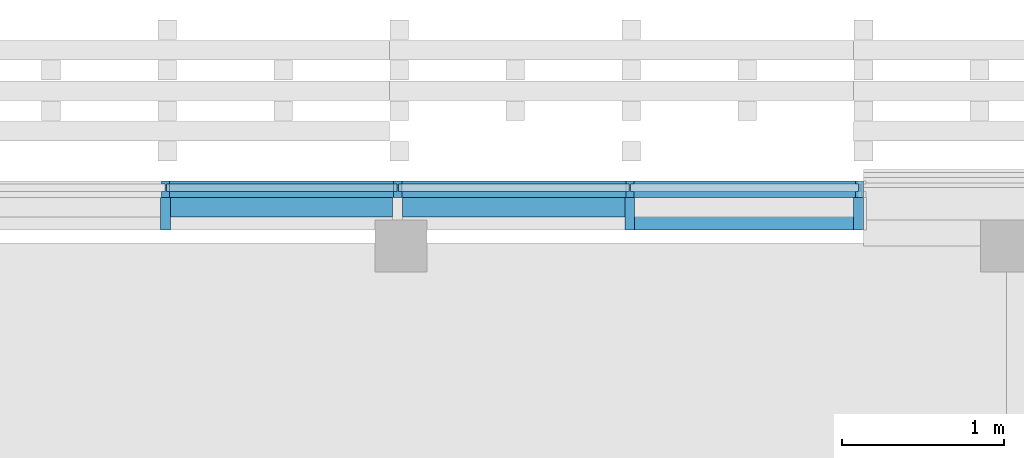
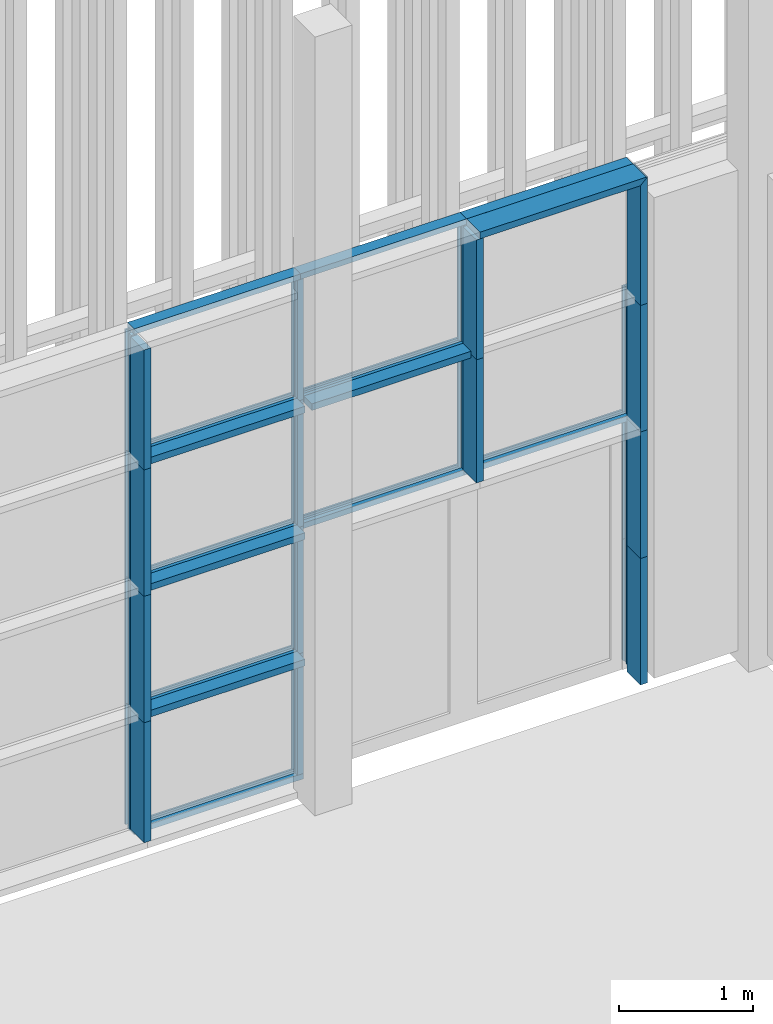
# One storey, part 38 of 260: 38 members, 2 elements without a shape of their own.
"""IFC2X3 building model written with IfcOpenShell, lengths in millimetres."""

from ifc_helpers import new_model, entity, si_unit, converted_unit, derived_unit, money_unit, direction, frame, origin_with_axes, place, context, subcontext, project, spatial, faceted_brep, source, transform, mapped, material, type_object, element, aggregate, save


model = new_model("IFC2X3")

# Units and contexts
model_context = context("Model", 3, precision=0.01, world=origin_with_axes(), true_north=direction((0.0, 1.0)))
body_context = subcontext(model_context, "Body", "Model", "MODEL_VIEW")
ifc_project = project(units=[si_unit("LENGTHUNIT", "METRE", prefix="MILLI"), si_unit("AREAUNIT", "SQUARE_METRE"), si_unit("VOLUMEUNIT", "CUBIC_METRE"), converted_unit("PLANEANGLEUNIT", "DEGREE", entity("IfcPlaneAngleMeasure", 0.0174532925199), si_unit("PLANEANGLEUNIT", "RADIAN"), dimensions=[0, 0, 0, 0, 0, 0, 0]), money_unit("EUR"), converted_unit("TIMEUNIT", "Year", entity("IfcTimeMeasure", 31556926.0), si_unit("TIMEUNIT", "SECOND"), dimensions=[0, 0, 1, 0, 0, 0, 0]), si_unit("MASSUNIT", "GRAM", prefix="KILO"), si_unit("THERMODYNAMICTEMPERATUREUNIT", "DEGREE_CELSIUS"), si_unit("LUMINOUSINTENSITYUNIT", "LUMEN"), si_unit("ENERGYUNIT", "JOULE", prefix="MEGA"), derived_unit("THERMALCONDUCTANCEUNIT", [(si_unit("POWERUNIT", "WATT"), 1), (si_unit("LENGTHUNIT", "METRE"), -1), (si_unit("THERMODYNAMICTEMPERATUREUNIT", "KELVIN"), -1)]), derived_unit("SPECIFICHEATCAPACITYUNIT", [(si_unit("ENERGYUNIT", "JOULE"), 1), (si_unit("MASSUNIT", "GRAM", prefix="KILO"), -1), (si_unit("THERMODYNAMICTEMPERATUREUNIT", "KELVIN"), -1)]), derived_unit("MASSDENSITYUNIT", [(si_unit("MASSUNIT", "GRAM", prefix="KILO"), 1), (si_unit("VOLUMEUNIT", "CUBIC_METRE"), -1)])], contexts=[model_context])

# Site, building, storey
site_placement = place(None, origin_with_axes())
site = spatial("IfcSite", under=ifc_project, at=site_placement, Name="Kolde pst 67a", CompositionType="ELEMENT")
building_placement = place(site_placement, origin_with_axes())
building = spatial("IfcBuilding", under=site, at=building_placement, Name="Riigigümnaasium", CompositionType="ELEMENT")
storey_placement = place(building_placement, origin_with_axes())
storey = spatial("IfcBuildingStorey", under=building, at=storey_placement, Name="1. korrus", CompositionType="ELEMENT", Elevation=0.0)

# Curtain wall, members
curtain_wall_type = type_object("IfcCurtainWallType", Name="Curtain Wall Type", PredefinedType="NOTDEFINED")
curtain_wall_1_placement = place(storey_placement, frame((10366.0828546, 84639.9999608, 0.0), z_axis=(0.0, 0.0, 1.0), x_axis=(1.0, 0.0, 0.0)))
curtain_wall_1 = element("IfcCurtainWall", 1, at=curtain_wall_1_placement, inside=storey, type_object=curtain_wall_type, Name="KLAASFASSAAD")
ifc_material_1 = material(Name="_METALL - alumiinium")
member_type_1 = type_object("IfcMemberType", Name="Boundary Frame 50 x 100", PredefinedType="MEMBER")
shared_shape_1 = source(origin_with_axes(), body_context, "Body", "Brep", [
    faceted_brep([(-30.0, -24.0, 1455.0), (-50.0, -24.0, 1455.0), (-50.0, -60.0, 1455.0), (0.0, -60.0, 1455.0), (0.0, 40.0, 1455.0), (-50.0, 40.0, 1455.0), (-50.0, 24.0, 1455.0), (-30.0, 24.0, 1455.0), (-30.0, -24.0, 0.0), (-50.0, -24.0, 0.0), (-50.0, -60.0, 0.0), (0.0, -60.0, 0.0), (0.0, 40.0, 0.0), (-50.0, 40.0, 0.0), (-50.0, 24.0, 0.0), (-30.0, 24.0, 0.0)], [[[0, 1, 2, 3, 4, 5, 6, 7]], [[0, 8, 9, 1]], [[9, 10, 2, 1]], [[10, 11, 3, 2]], [[11, 12, 4, 3]], [[12, 13, 5, 4]], [[6, 5, 13, 14]], [[14, 15, 7, 6]], [[7, 15, 8, 0]], [[8, 15, 14, 13, 12, 11, 10, 9]]]),
])
member_1_placement = place(curtain_wall_1_placement, frame((20735.0, 0.0, 0.0), z_axis=(1.0, 0.0, 0.0), x_axis=(0.0, 0.0, 1.0)))
member_1 = element("IfcMember", 2, at=member_1_placement, type_object=member_type_1, material=ifc_material_1, Name="RF RAAM SERV-091", ObjectType="MEMBER", context=body_context, shape_type="MappedRepresentation", body=[
    mapped(shared_shape_1, transform((0.0, 0.0, 0.0), x_axis=(-1.0, 0.0, 0.0), y_axis=(0.0, -1.0, 0.0), z_axis=(0.0, 0.0, 1.0))),
])
member_type_2 = type_object("IfcMemberType", Name="Transom Frame 50 x 100", PredefinedType="MEMBER")
shared_shape_2 = source(origin_with_axes(), body_context, "Body", "Brep", [
    faceted_brep([(5.0, -24.0, 1405.0), (5.0, 24.0, 1405.0), (25.0, 24.0, 1405.0), (25.0, 40.0, 1405.0), (-25.0, 40.0, 1405.0), (-25.0, 24.0, 1405.0), (-5.0, 24.0, 1405.0), (-5.0, -24.0, 1405.0), (-25.0, -24.0, 1405.0), (-25.0, -60.0, 1405.0), (25.0, -60.0, 1405.0), (25.0, -24.0, 1405.0), (5.0, -24.0, 25.0), (5.0, 24.0, 25.0), (25.0, 24.0, 25.0), (25.0, 40.0, 25.0), (-25.0, 40.0, 25.0), (-25.0, 24.0, 25.0), (-5.0, 24.0, 25.0), (-5.0, -24.0, 25.0), (-25.0, -24.0, 25.0), (-25.0, -60.0, 25.0), (25.0, -60.0, 25.0), (25.0, -24.0, 25.0)], [[[0, 1, 2, 3, 4, 5, 6, 7, 8, 9, 10, 11]], [[0, 12, 13, 1]], [[1, 13, 14, 2]], [[14, 15, 3, 2]], [[4, 3, 15, 16]], [[17, 5, 4, 16]], [[5, 17, 18, 6]], [[7, 6, 18, 19]], [[8, 7, 19, 20]], [[8, 20, 21, 9]], [[10, 9, 21, 22]], [[11, 10, 22, 23]], [[11, 23, 12, 0]], [[13, 12, 23, 22, 21, 20, 19, 18, 17, 16, 15, 14]]]),
])
member_2_placement = place(curtain_wall_1_placement, frame((20735.0, 0.0, 1150.0), z_axis=(1.0, 0.0, 0.0), x_axis=(0.0, 0.0, 1.0)))
member_2 = element("IfcMember", 3, at=member_2_placement, type_object=member_type_2, material=ifc_material_1, Name="RF RAAM HOR-798", ObjectType="MEMBER", context=body_context, shape_type="MappedRepresentation", body=[
    mapped(shared_shape_2, transform((0.0, 0.0, 0.0), x_axis=(-1.0, 0.0, 0.0), y_axis=(0.0, -1.0, 0.0), z_axis=(0.0, 0.0, 1.0))),
])
member_3_placement = place(curtain_wall_1_placement, frame((20735.0, 0.0, 2300.0), z_axis=(1.0, 0.0, 0.0), x_axis=(0.0, 0.0, 1.0)))
member_3 = element("IfcMember", 4, at=member_3_placement, type_object=member_type_2, material=ifc_material_1, Name="RF RAAM HOR-798", ObjectType="MEMBER", context=body_context, shape_type="MappedRepresentation", body=[
    mapped(shared_shape_2, transform((0.0, 0.0, 0.0), x_axis=(-1.0, 0.0, 0.0), y_axis=(0.0, -1.0, 0.0), z_axis=(0.0, 0.0, 1.0))),
])
member_4_placement = place(curtain_wall_1_placement, frame((22165.0, 0.0, 2300.0), z_axis=(1.0, 0.0, 0.0), x_axis=(0.0, 0.0, 1.0)))
member_4 = element("IfcMember", 5, at=member_4_placement, type_object=member_type_2, material=ifc_material_1, Name="RF RAAM HOR-798", ObjectType="MEMBER", context=body_context, shape_type="MappedRepresentation", body=[
    mapped(shared_shape_2, transform((0.0, 0.0, 0.0), x_axis=(-1.0, 0.0, 0.0), y_axis=(0.0, -1.0, 0.0), z_axis=(0.0, 0.0, 1.0))),
])
member_5_placement = place(curtain_wall_1_placement, frame((20735.0, 0.0, 3450.0), z_axis=(1.0, 0.0, 0.0), x_axis=(0.0, 0.0, 1.0)))
member_5 = element("IfcMember", 6, at=member_5_placement, type_object=member_type_2, material=ifc_material_1, Name="RF RAAM HOR-798", ObjectType="MEMBER", context=body_context, shape_type="MappedRepresentation", body=[
    mapped(shared_shape_2, transform((0.0, 0.0, 0.0), x_axis=(-1.0, 0.0, 0.0), y_axis=(0.0, -1.0, 0.0), z_axis=(0.0, 0.0, 1.0))),
])
member_6_placement = place(curtain_wall_1_placement, frame((22165.0, 0.0, 3450.0), z_axis=(1.0, 0.0, 0.0), x_axis=(0.0, 0.0, 1.0)))
member_6 = element("IfcMember", 7, at=member_6_placement, type_object=member_type_2, material=ifc_material_1, Name="RF RAAM HOR-798", ObjectType="MEMBER", context=body_context, shape_type="MappedRepresentation", body=[
    mapped(shared_shape_2, transform((0.0, 0.0, 0.0), x_axis=(-1.0, 0.0, 0.0), y_axis=(0.0, -1.0, 0.0), z_axis=(0.0, 0.0, 1.0))),
])
member_7_placement = place(curtain_wall_1_placement, frame((23595.0, 0.0, 2300.0), z_axis=(1.0, 0.0, 0.0), x_axis=(0.0, 0.0, 1.0)))
member_7 = element("IfcMember", 8, at=member_7_placement, type_object=member_type_2, material=ifc_material_1, Name="RF RAAM HOR-019", ObjectType="MEMBER", context=body_context, shape_type="MappedRepresentation", body=[
    mapped(shared_shape_2, transform((0.0, 0.0, 0.0), x_axis=(-1.0, 0.0, 0.0), y_axis=(0.0, -1.0, 0.0), z_axis=(0.0, 0.0, 1.0))),
])
member_type_3 = type_object("IfcMemberType", Name="Mullion Frame 50 x 100", PredefinedType="MEMBER")
shared_shape_3 = source(origin_with_axes(), body_context, "Body", "Brep", [
    faceted_brep([(5.0, -24.0, 1150.0), (5.0, 24.0, 1150.0), (25.0, 24.0, 1150.0), (25.0, 40.0, 1150.0), (-25.0, 40.0, 1150.0), (-25.0, 24.0, 1150.0), (-5.0, 24.0, 1150.0), (-5.0, -24.0, 1150.0), (-25.0, -24.0, 1150.0), (-25.0, -60.0, 1150.0), (25.0, -60.0, 1150.0), (25.0, -24.0, 1150.0), (5.0, -24.0, 50.0), (5.0, 24.0, 50.0), (25.0, 24.0, 50.0), (25.0, 40.0, 50.0), (-25.0, 40.0, 50.0), (-25.0, 24.0, 50.0), (-5.0, 24.0, 50.0), (-5.0, -24.0, 50.0), (-25.0, -24.0, 50.0), (-25.0, -60.0, 50.0), (25.0, -60.0, 50.0), (25.0, -24.0, 50.0)], [[[0, 1, 2, 3, 4, 5, 6, 7, 8, 9, 10, 11]], [[0, 12, 13, 1]], [[1, 13, 14, 2]], [[14, 15, 3, 2]], [[4, 3, 15, 16]], [[17, 5, 4, 16]], [[5, 17, 18, 6]], [[7, 6, 18, 19]], [[8, 7, 19, 20]], [[8, 20, 21, 9]], [[10, 9, 21, 22]], [[11, 10, 22, 23]], [[11, 23, 12, 0]], [[13, 12, 23, 22, 21, 20, 19, 18, 17, 16, 15, 14]]]),
])
member_8_placement = place(curtain_wall_1_placement, frame((20735.0, 0.0, 0.0), z_axis=(0.0, 0.0, 1.0), x_axis=(-1.0, 0.0, 0.0)))
member_8 = element("IfcMember", 9, at=member_8_placement, type_object=member_type_3, material=ifc_material_1, Name="RF RAAM VERT-904", ObjectType="MEMBER", context=body_context, shape_type="MappedRepresentation", body=[
    mapped(shared_shape_3, transform((0.0, 0.0, 0.0), x_axis=(-1.0, 0.0, 0.0), y_axis=(0.0, -1.0, 0.0), z_axis=(0.0, 0.0, 1.0))),
])
member_9_placement = place(curtain_wall_1_placement, frame((22165.0, 0.0, 0.0), z_axis=(0.0, 0.0, 1.0), x_axis=(-1.0, 0.0, 0.0)))
member_9 = element("IfcMember", 10, at=member_9_placement, type_object=member_type_3, material=ifc_material_1, Name="RF RAAM VERT-904", ObjectType="MEMBER", context=body_context, shape_type="MappedRepresentation", body=[
    mapped(shared_shape_3, transform((0.0, 0.0, 0.0), x_axis=(-1.0, 0.0, 0.0), y_axis=(0.0, -1.0, 0.0), z_axis=(0.0, 0.0, 1.0))),
])
shared_shape_4 = source(origin_with_axes(), body_context, "Body", "Brep", [
    faceted_brep([(5.0, -24.0, 1150.0), (5.0, 24.0, 1150.0), (25.0, 24.0, 1150.0), (25.0, 40.0, 1150.0), (-25.0, 40.0, 1150.0), (-25.0, 24.0, 1150.0), (-5.0, 24.0, 1150.0), (-5.0, -24.0, 1150.0), (-25.0, -24.0, 1150.0), (-25.0, -60.0, 1150.0), (25.0, -60.0, 1150.0), (25.0, -24.0, 1150.0), (5.0, -24.0, 0.0), (5.0, 24.0, 0.0), (25.0, 24.0, 0.0), (25.0, 40.0, 0.0), (-25.0, 40.0, 0.0), (-25.0, 24.0, 0.0), (-5.0, 24.0, 0.0), (-5.0, -24.0, 0.0), (-25.0, -24.0, 0.0), (-25.0, -60.0, 0.0), (25.0, -60.0, 0.0), (25.0, -24.0, 0.0)], [[[0, 1, 2, 3, 4, 5, 6, 7, 8, 9, 10, 11]], [[0, 12, 13, 1]], [[1, 13, 14, 2]], [[14, 15, 3, 2]], [[3, 15, 16, 4]], [[17, 5, 4, 16]], [[5, 17, 18, 6]], [[7, 6, 18, 19]], [[8, 7, 19, 20]], [[8, 20, 21, 9]], [[9, 21, 22, 10]], [[11, 10, 22, 23]], [[11, 23, 12, 0]], [[13, 12, 23, 22, 21, 20, 19, 18, 17, 16, 15, 14]]]),
])
member_10_placement = place(curtain_wall_1_placement, frame((20735.0, 0.0, 1150.0), z_axis=(0.0, 0.0, 1.0), x_axis=(-1.0, 0.0, 0.0)))
member_10 = element("IfcMember", 11, at=member_10_placement, type_object=member_type_3, material=ifc_material_1, Name="RF RAAM VERT-904", ObjectType="MEMBER", context=body_context, shape_type="MappedRepresentation", body=[
    mapped(shared_shape_4, transform((0.0, 0.0, 0.0), x_axis=(-1.0, 0.0, 0.0), y_axis=(0.0, -1.0, 0.0), z_axis=(0.0, 0.0, 1.0))),
])
member_11_placement = place(curtain_wall_1_placement, frame((22165.0, 0.0, 1150.0), z_axis=(0.0, 0.0, 1.0), x_axis=(-1.0, 0.0, 0.0)))
member_11 = element("IfcMember", 12, at=member_11_placement, type_object=member_type_3, material=ifc_material_1, Name="RF RAAM VERT-904", ObjectType="MEMBER", context=body_context, shape_type="MappedRepresentation", body=[
    mapped(shared_shape_4, transform((0.0, 0.0, 0.0), x_axis=(-1.0, 0.0, 0.0), y_axis=(0.0, -1.0, 0.0), z_axis=(0.0, 0.0, 1.0))),
])
member_12_placement = place(curtain_wall_1_placement, frame((20735.0, 0.0, 2300.0), z_axis=(0.0, 0.0, 1.0), x_axis=(-1.0, 0.0, 0.0)))
member_12 = element("IfcMember", 13, at=member_12_placement, type_object=member_type_3, material=ifc_material_1, Name="RF RAAM VERT-904", ObjectType="MEMBER", context=body_context, shape_type="MappedRepresentation", body=[
    mapped(shared_shape_4, transform((0.0, 0.0, 0.0), x_axis=(-1.0, 0.0, 0.0), y_axis=(0.0, -1.0, 0.0), z_axis=(0.0, 0.0, 1.0))),
])
member_13_placement = place(curtain_wall_1_placement, frame((22165.0, 0.0, 2300.0), z_axis=(0.0, 0.0, 1.0), x_axis=(-1.0, 0.0, 0.0)))
member_13 = element("IfcMember", 14, at=member_13_placement, type_object=member_type_3, material=ifc_material_1, Name="RF RAAM VERT-904", ObjectType="MEMBER", context=body_context, shape_type="MappedRepresentation", body=[
    mapped(shared_shape_4, transform((0.0, 0.0, 0.0), x_axis=(-1.0, 0.0, 0.0), y_axis=(0.0, -1.0, 0.0), z_axis=(0.0, 0.0, 1.0))),
])
shared_shape_5 = source(origin_with_axes(), body_context, "Body", "Brep", [
    faceted_brep([(5.0, -24.0, 1150.0), (5.0, 24.0, 1150.0), (25.0, 24.0, 1150.0), (25.0, 40.0, 1150.0), (-25.0, 40.0, 1150.0), (-25.0, 24.0, 1150.0), (-5.0, 24.0, 1150.0), (-5.0, -24.0, 1150.0), (-25.0, -24.0, 1150.0), (-25.0, -60.0, 1150.0), (25.0, -60.0, 1150.0), (25.0, -24.0, 1150.0), (5.0, -24.0, -25.0), (5.0, 24.0, -25.0), (25.0, 24.0, -25.0), (25.0, 40.0, -25.0), (-25.0, 40.0, -25.0), (-25.0, 24.0, -25.0), (-5.0, 24.0, -25.0), (-5.0, -24.0, -25.0), (-25.0, -24.0, -25.0), (-25.0, -60.0, -25.0), (25.0, -60.0, -25.0), (25.0, -24.0, -25.0)], [[[0, 1, 2, 3, 4, 5, 6, 7, 8, 9, 10, 11]], [[0, 12, 13, 1]], [[1, 13, 14, 2]], [[14, 15, 3, 2]], [[3, 15, 16, 4]], [[17, 5, 4, 16]], [[5, 17, 18, 6]], [[7, 6, 18, 19]], [[8, 7, 19, 20]], [[8, 20, 21, 9]], [[9, 21, 22, 10]], [[11, 10, 22, 23]], [[11, 23, 12, 0]], [[13, 12, 23, 22, 21, 20, 19, 18, 17, 16, 15, 14]]]),
])
member_14_placement = place(curtain_wall_1_placement, frame((23595.0, 0.0, 2300.0), z_axis=(0.0, 0.0, 1.0), x_axis=(-1.0, 0.0, 0.0)))
member_14 = element("IfcMember", 15, at=member_14_placement, type_object=member_type_3, material=ifc_material_1, Name="RF RAAM VERT-904", ObjectType="MEMBER", context=body_context, shape_type="MappedRepresentation", body=[
    mapped(shared_shape_5, transform((0.0, 0.0, 0.0), x_axis=(-1.0, 0.0, 0.0), y_axis=(0.0, -1.0, 0.0), z_axis=(0.0, 0.0, 1.0))),
])
shared_shape_6 = source(origin_with_axes(), body_context, "Body", "Brep", [
    faceted_brep([(-30.0, -24.0, 1150.0), (-50.0, -24.0, 1150.0), (-50.0, -60.0, 1150.0), (0.0, -60.0, 1150.0), (0.0, 40.0, 1150.0), (-50.0, 40.0, 1150.0), (-50.0, 24.0, 1150.0), (-30.0, 24.0, 1150.0), (-30.0, -24.0, 0.0), (-50.0, -24.0, 0.0), (-50.0, -60.0, 0.0), (0.0, -60.0, 0.0), (0.0, 40.0, 0.0), (-50.0, 40.0, 0.0), (-50.0, 24.0, 0.0), (-30.0, 24.0, 0.0)], [[[0, 1, 2, 3, 4, 5, 6, 7]], [[0, 8, 9, 1]], [[9, 10, 2, 1]], [[10, 11, 3, 2]], [[11, 12, 4, 3]], [[12, 13, 5, 4]], [[6, 5, 13, 14]], [[14, 15, 7, 6]], [[7, 15, 8, 0]], [[8, 15, 14, 13, 12, 11, 10, 9]]]),
])
member_15_placement = place(curtain_wall_1_placement, frame((25033.9174616, 0.0, 2300.0), z_axis=(0.0, 0.0, 1.0), x_axis=(-1.0, 0.0, 0.0)))
member_15 = element("IfcMember", 16, at=member_15_placement, type_object=member_type_1, material=ifc_material_1, Name="RF RAAM SERV-097", ObjectType="MEMBER", context=body_context, shape_type="MappedRepresentation", body=[
    mapped(shared_shape_6, transform((0.0, 0.0, 0.0), x_axis=(-1.0, 0.0, 0.0), y_axis=(0.0, -1.0, 0.0), z_axis=(0.0, 0.0, 1.0))),
])
member_16_placement = place(curtain_wall_1_placement, frame((25033.9174616, 0.0, 1150.0), z_axis=(0.0, 0.0, 1.0), x_axis=(-1.0, 0.0, 0.0)))
member_16 = element("IfcMember", 17, at=member_16_placement, type_object=member_type_1, material=ifc_material_1, Name="RF RAAM SERV-096", ObjectType="MEMBER", context=body_context, shape_type="MappedRepresentation", body=[
    mapped(shared_shape_6, transform((0.0, 0.0, 0.0), x_axis=(-1.0, 0.0, 0.0), y_axis=(0.0, -1.0, 0.0), z_axis=(0.0, 0.0, 1.0))),
])
shared_shape_7 = source(origin_with_axes(), body_context, "Body", "Brep", [
    faceted_brep([(-30.0, -24.0, 1150.0), (-50.0, -24.0, 1150.0), (-50.0, -60.0, 1150.0), (0.0, -60.0, 1150.0), (0.0, 40.0, 1150.0), (-50.0, 40.0, 1150.0), (-50.0, 24.0, 1150.0), (-30.0, 24.0, 1150.0), (-30.0, -24.0, 30.0), (-50.0, -24.0, 50.0), (-50.0, -60.0, 50.0), (0.0, -60.0, 0.0), (0.0, 40.0, 0.0), (-50.0, 40.0, 50.0), (-50.0, 24.0, 50.0), (-30.0, 24.0, 30.0)], [[[0, 1, 2, 3, 4, 5, 6, 7]], [[0, 8, 9, 1]], [[9, 10, 2, 1]], [[2, 10, 11, 3]], [[3, 11, 12, 4]], [[4, 12, 13, 5]], [[6, 5, 13, 14]], [[14, 15, 7, 6]], [[7, 15, 8, 0]], [[8, 15, 14, 13, 12, 11, 10, 9]]]),
])
member_17_placement = place(curtain_wall_1_placement, frame((25033.9174616, 0.0, 0.0), z_axis=(0.0, 0.0, 1.0), x_axis=(-1.0, 0.0, 0.0)))
member_17 = element("IfcMember", 18, at=member_17_placement, type_object=member_type_1, material=ifc_material_1, Name="RF RAAM SERV-095", ObjectType="MEMBER", context=body_context, shape_type="MappedRepresentation", body=[
    mapped(shared_shape_7, transform((0.0, 0.0, 0.0), x_axis=(-1.0, 0.0, 0.0), y_axis=(0.0, -1.0, 0.0), z_axis=(0.0, 0.0, 1.0))),
])
shared_shape_8 = source(origin_with_axes(), body_context, "Body", "Brep", [
    faceted_brep([(5.0, -24.0, 1100.0), (5.0, 24.0, 1100.0), (25.0, 24.0, 1100.0), (25.0, 40.0, 1100.0), (-25.0, 40.0, 1100.0), (-25.0, 24.0, 1100.0), (-5.0, 24.0, 1100.0), (-5.0, -24.0, 1100.0), (-25.0, -24.0, 1100.0), (-25.0, -60.0, 1100.0), (25.0, -60.0, 1100.0), (25.0, -24.0, 1100.0), (5.0, -24.0, 0.0), (5.0, 24.0, 0.0), (25.0, 24.0, 0.0), (25.0, 40.0, 0.0), (-25.0, 40.0, 0.0), (-25.0, 24.0, 0.0), (-5.0, 24.0, 0.0), (-5.0, -24.0, 0.0), (-25.0, -24.0, 0.0), (-25.0, -60.0, 0.0), (25.0, -60.0, 0.0), (25.0, -24.0, 0.0)], [[[0, 1, 2, 3, 4, 5, 6, 7, 8, 9, 10, 11]], [[0, 12, 13, 1]], [[1, 13, 14, 2]], [[14, 15, 3, 2]], [[3, 15, 16, 4]], [[17, 5, 4, 16]], [[5, 17, 18, 6]], [[7, 6, 18, 19]], [[8, 7, 19, 20]], [[8, 20, 21, 9]], [[9, 21, 22, 10]], [[11, 10, 22, 23]], [[11, 23, 12, 0]], [[13, 12, 23, 22, 21, 20, 19, 18, 17, 16, 15, 14]]]),
])
member_18_placement = place(curtain_wall_1_placement, frame((20735.0, 0.0, 3450.0), z_axis=(0.0, 0.0, 1.0), x_axis=(-1.0, 0.0, 0.0)))
member_18 = element("IfcMember", 19, at=member_18_placement, type_object=member_type_3, material=ifc_material_1, Name="RF RAAM VERT-239", ObjectType="MEMBER", context=body_context, shape_type="MappedRepresentation", body=[
    mapped(shared_shape_8, transform((0.0, 0.0, 0.0), x_axis=(-1.0, 0.0, 0.0), y_axis=(0.0, -1.0, 0.0), z_axis=(0.0, 0.0, 1.0))),
])
member_19_placement = place(curtain_wall_1_placement, frame((22165.0, 0.0, 3450.0), z_axis=(0.0, 0.0, 1.0), x_axis=(-1.0, 0.0, 0.0)))
member_19 = element("IfcMember", 20, at=member_19_placement, type_object=member_type_3, material=ifc_material_1, Name="RF RAAM VERT-240", ObjectType="MEMBER", context=body_context, shape_type="MappedRepresentation", body=[
    mapped(shared_shape_8, transform((0.0, 0.0, 0.0), x_axis=(-1.0, 0.0, 0.0), y_axis=(0.0, -1.0, 0.0), z_axis=(0.0, 0.0, 1.0))),
])
member_20_placement = place(curtain_wall_1_placement, frame((23595.0, 0.0, 3450.0), z_axis=(0.0, 0.0, 1.0), x_axis=(-1.0, 0.0, 0.0)))
member_20 = element("IfcMember", 21, at=member_20_placement, type_object=member_type_3, material=ifc_material_1, Name="RF RAAM VERT-241", ObjectType="MEMBER", context=body_context, shape_type="MappedRepresentation", body=[
    mapped(shared_shape_8, transform((0.0, 0.0, 0.0), x_axis=(-1.0, 0.0, 0.0), y_axis=(0.0, -1.0, 0.0), z_axis=(0.0, 0.0, 1.0))),
])
shared_shape_9 = source(origin_with_axes(), body_context, "Body", "Brep", [
    faceted_brep([(30.0, -24.0, 1430.0), (30.0, 24.0, 1430.0), (50.0, 24.0, 1430.0), (50.0, 40.0, 1430.0), (0.0, 40.0, 1430.0), (0.0, -60.0, 1430.0), (50.0, -60.0, 1430.0), (50.0, -24.0, 1430.0), (30.0, -24.0, 0.0), (30.0, 24.0, 0.0), (50.0, 24.0, 0.0), (50.0, 40.0, 0.0), (0.0, 40.0, 0.0), (0.0, -60.0, 0.0), (50.0, -60.0, 0.0), (50.0, -24.0, 0.0)], [[[0, 1, 2, 3, 4, 5, 6, 7]], [[1, 0, 8, 9]], [[10, 2, 1, 9]], [[2, 10, 11, 3]], [[12, 4, 3, 11]], [[13, 5, 4, 12]], [[14, 6, 5, 13]], [[15, 7, 6, 14]], [[0, 7, 15, 8]], [[8, 15, 14, 13, 12, 11, 10, 9]]]),
])
member_21_placement = place(curtain_wall_1_placement, frame((20735.0, 0.0, 4600.0), z_axis=(1.0, 0.0, 0.0), x_axis=(0.0, 0.0, 1.0)))
member_21 = element("IfcMember", 22, at=member_21_placement, type_object=member_type_1, material=ifc_material_1, Name="RF RAAM SERV-102", ObjectType="MEMBER", context=body_context, shape_type="MappedRepresentation", body=[
    mapped(shared_shape_9, transform((0.0, 0.0, 0.0), x_axis=(-1.0, 0.0, 0.0), y_axis=(0.0, -1.0, 0.0), z_axis=(0.0, 0.0, 1.0))),
])
member_22_placement = place(curtain_wall_1_placement, frame((22165.0, 0.0, 4600.0), z_axis=(1.0, 0.0, 0.0), x_axis=(0.0, 0.0, 1.0)))
member_22 = element("IfcMember", 23, at=member_22_placement, type_object=member_type_1, material=ifc_material_1, Name="RF RAAM SERV-101", ObjectType="MEMBER", context=body_context, shape_type="MappedRepresentation", body=[
    mapped(shared_shape_9, transform((0.0, 0.0, 0.0), x_axis=(-1.0, 0.0, 0.0), y_axis=(0.0, -1.0, 0.0), z_axis=(0.0, 0.0, 1.0))),
])
member_23_placement = place(curtain_wall_1_placement, frame((23595.0, 0.0, 4600.0), z_axis=(1.0, 0.0, 0.0), x_axis=(0.0, 0.0, 1.0)))
member_23 = element("IfcMember", 24, at=member_23_placement, type_object=member_type_1, material=ifc_material_1, Name="RF RAAM SERV-100", ObjectType="MEMBER", context=body_context, shape_type="MappedRepresentation", body=[
    mapped(shared_shape_9, transform((0.0, 0.0, 0.0), x_axis=(-1.0, 0.0, 0.0), y_axis=(0.0, -1.0, 0.0), z_axis=(0.0, 0.0, 1.0))),
])
aggregate(curtain_wall_1, [member_1, member_8, member_9, member_2, member_10, member_11, member_3, member_12, member_4, member_13, member_14, member_5, member_6, member_7, member_15, member_16, member_17, member_18, member_19, member_20, member_21, member_22, member_23])

curtain_wall_2_placement = place(storey_placement, frame((7516.12873899, 84579.9999608, 0.0), z_axis=(0.0, 0.0, 1.0), x_axis=(1.0, 0.0, 0.0)))
curtain_wall_2 = element("IfcCurtainWall", 25, at=curtain_wall_2_placement, inside=storey, type_object=curtain_wall_type, Name="Klaasfassaadi puitkarkass")
ifc_material_2 = material(Name="_KANDETARIND - liimpuit vastavalt EK osale")
member_type_4 = type_object("IfcMemberType", Name="Mullion Frame 60 x 200", PredefinedType="MEMBER")
shared_shape_10 = source(origin_with_axes(), body_context, "Body", "Brep", [
    faceted_brep([(-30.0, -200.0, 0.0), (-30.0, -200.0, 1090.0), (-30.0, 0.0, 1090.0), (-30.0, 0.0, 0.0), (30.0, -200.0, 0.0), (30.0, -200.0, 1090.0), (30.0, 0.0, 1090.0), (30.0, 0.0, 0.0)], [[[0, 1, 2, 3]], [[4, 5, 1, 0]], [[1, 5, 6, 2]], [[3, 2, 6, 7]], [[0, 3, 7, 4]], [[7, 6, 5, 4]]]),
])
member_24_placement = place(curtain_wall_2_placement, frame((23583.6284674, 0.0, 3450.0), z_axis=(0.0, 0.0, 1.0), x_axis=(-1.0, 0.0, 0.0)))
member_24 = element("IfcMember", 26, at=member_24_placement, type_object=member_type_4, material=ifc_material_2, Name="RF RAAM VERT-687", ObjectType="MEMBER", context=body_context, shape_type="MappedRepresentation", body=[
    mapped(shared_shape_10, transform((0.0, 0.0, 0.0), x_axis=(-1.0, 0.0, 0.0), y_axis=(0.0, -1.0, 0.0), z_axis=(0.0, 0.0, 1.0))),
])
member_25_placement = place(curtain_wall_2_placement, frame((26443.6284674, 0.0, 3450.0), z_axis=(0.0, 0.0, 1.0), x_axis=(-1.0, 0.0, 0.0)))
member_25 = element("IfcMember", 27, at=member_25_placement, type_object=member_type_4, material=ifc_material_2, Name="RF RAAM VERT-689", ObjectType="MEMBER", context=body_context, shape_type="MappedRepresentation", body=[
    mapped(shared_shape_10, transform((0.0, 0.0, 0.0), x_axis=(-1.0, 0.0, 0.0), y_axis=(0.0, -1.0, 0.0), z_axis=(0.0, 0.0, 1.0))),
])
shared_shape_11 = source(origin_with_axes(), body_context, "Body", "Brep", [
    faceted_brep([(-30.0, 0.0, 60.0), (-30.0, -200.0, 60.0), (-30.0, -200.0, 1150.0), (-30.0, 0.0, 1150.0), (30.0, 0.0, 60.0), (30.0, -200.0, 60.0), (30.0, -200.0, 1150.0), (30.0, 0.0, 1150.0)], [[[0, 1, 2, 3]], [[1, 0, 4, 5]], [[1, 5, 6, 2]], [[2, 6, 7, 3]], [[4, 0, 3, 7]], [[5, 4, 7, 6]]]),
])
member_26_placement = place(curtain_wall_2_placement, frame((23583.6284674, 0.0, 0.0), z_axis=(0.0, 0.0, 1.0), x_axis=(-1.0, 0.0, 0.0)))
member_26 = element("IfcMember", 28, at=member_26_placement, type_object=member_type_4, material=ifc_material_2, Name="RF RAAM VERT-472", ObjectType="MEMBER", context=body_context, shape_type="MappedRepresentation", body=[
    mapped(shared_shape_11, transform((0.0, 0.0, 0.0), x_axis=(-1.0, 0.0, 0.0), y_axis=(0.0, -1.0, 0.0), z_axis=(0.0, 0.0, 1.0))),
])
member_type_5 = type_object("IfcMemberType", Name="Transom Frame 60 x 120", PredefinedType="MEMBER")
shared_shape_12 = source(origin_with_axes(), body_context, "Body", "Brep", [
    faceted_brep([(-30.0, 0.0, 30.0), (-30.0, -120.0, 30.0), (-30.0, -120.0, 1400.0), (-30.0, 0.0, 1400.0), (30.0, 0.0, 30.0), (30.0, -120.0, 30.0), (30.0, -120.0, 1400.0), (30.0, 0.0, 1400.0)], [[[0, 1, 2, 3]], [[1, 0, 4, 5]], [[1, 5, 6, 2]], [[2, 6, 7, 3]], [[4, 0, 3, 7]], [[5, 4, 7, 6]]]),
])
member_27_placement = place(curtain_wall_2_placement, frame((23583.6284674, 0.0, 1150.0), z_axis=(1.0, 0.0, 0.0), x_axis=(0.0, 0.0, 1.0)))
member_27 = element("IfcMember", 29, at=member_27_placement, type_object=member_type_5, material=ifc_material_2, Name="RF RAAM HOR-467", ObjectType="MEMBER", context=body_context, shape_type="MappedRepresentation", body=[
    mapped(shared_shape_12, transform((0.0, 0.0, 0.0), x_axis=(-1.0, 0.0, 0.0), y_axis=(0.0, -1.0, 0.0), z_axis=(0.0, 0.0, 1.0))),
])
member_28_placement = place(curtain_wall_2_placement, frame((23583.6284674, 0.0, 2300.0), z_axis=(1.0, 0.0, 0.0), x_axis=(0.0, 0.0, 1.0)))
member_28 = element("IfcMember", 30, at=member_28_placement, type_object=member_type_5, material=ifc_material_2, Name="RF RAAM HOR-490", ObjectType="MEMBER", context=body_context, shape_type="MappedRepresentation", body=[
    mapped(shared_shape_12, transform((0.0, 0.0, 0.0), x_axis=(-1.0, 0.0, 0.0), y_axis=(0.0, -1.0, 0.0), z_axis=(0.0, 0.0, 1.0))),
])
member_29_placement = place(curtain_wall_2_placement, frame((23583.6284674, 0.0, 3450.0), z_axis=(1.0, 0.0, 0.0), x_axis=(0.0, 0.0, 1.0)))
member_29 = element("IfcMember", 31, at=member_29_placement, type_object=member_type_5, material=ifc_material_2, Name="RF RAAM HOR-513", ObjectType="MEMBER", context=body_context, shape_type="MappedRepresentation", body=[
    mapped(shared_shape_12, transform((0.0, 0.0, 0.0), x_axis=(-1.0, 0.0, 0.0), y_axis=(0.0, -1.0, 0.0), z_axis=(0.0, 0.0, 1.0))),
])
member_30_placement = place(curtain_wall_2_placement, frame((25013.6284674, 0.0, 3450.0), z_axis=(1.0, 0.0, 0.0), x_axis=(0.0, 0.0, 1.0)))
member_30 = element("IfcMember", 32, at=member_30_placement, type_object=member_type_5, material=ifc_material_2, Name="RF RAAM HOR-514", ObjectType="MEMBER", context=body_context, shape_type="MappedRepresentation", body=[
    mapped(shared_shape_12, transform((0.0, 0.0, 0.0), x_axis=(-1.0, 0.0, 0.0), y_axis=(0.0, -1.0, 0.0), z_axis=(0.0, 0.0, 1.0))),
])
shared_shape_13 = source(origin_with_axes(), body_context, "Body", "Brep", [
    faceted_brep([(-30.0, -200.0, 0.0), (-30.0, -200.0, 1150.0), (-30.0, 0.0, 1150.0), (-30.0, 0.0, 0.0), (30.0, -200.0, 0.0), (30.0, -200.0, 1150.0), (30.0, 0.0, 1150.0), (30.0, 0.0, 0.0)], [[[0, 1, 2, 3]], [[4, 5, 1, 0]], [[1, 5, 6, 2]], [[3, 2, 6, 7]], [[0, 3, 7, 4]], [[7, 6, 5, 4]]]),
])
member_31_placement = place(curtain_wall_2_placement, frame((23583.6284674, 0.0, 1150.0), z_axis=(0.0, 0.0, 1.0), x_axis=(-1.0, 0.0, 0.0)))
member_31 = element("IfcMember", 33, at=member_31_placement, type_object=member_type_4, material=ifc_material_2, Name="RF RAAM VERT-494", ObjectType="MEMBER", context=body_context, shape_type="MappedRepresentation", body=[
    mapped(shared_shape_13, transform((0.0, 0.0, 0.0), x_axis=(-1.0, 0.0, 0.0), y_axis=(0.0, -1.0, 0.0), z_axis=(0.0, 0.0, 1.0))),
])
member_32_placement = place(curtain_wall_2_placement, frame((23583.6284674, 0.0, 2300.0), z_axis=(0.0, 0.0, 1.0), x_axis=(-1.0, 0.0, 0.0)))
member_32 = element("IfcMember", 34, at=member_32_placement, type_object=member_type_4, material=ifc_material_2, Name="RF RAAM VERT-516", ObjectType="MEMBER", context=body_context, shape_type="MappedRepresentation", body=[
    mapped(shared_shape_13, transform((0.0, 0.0, 0.0), x_axis=(-1.0, 0.0, 0.0), y_axis=(0.0, -1.0, 0.0), z_axis=(0.0, 0.0, 1.0))),
])
shared_shape_14 = source(origin_with_axes(), body_context, "Body", "Brep", [
    faceted_brep([(-30.0, 0.0, 30.0), (-30.0, -200.0, 30.0), (-30.0, -200.0, 1150.0), (-30.0, 0.0, 1150.0), (30.0, 0.0, 30.0), (30.0, -200.0, 30.0), (30.0, -200.0, 1150.0), (30.0, 0.0, 1150.0)], [[[0, 1, 2, 3]], [[1, 0, 4, 5]], [[1, 5, 6, 2]], [[2, 6, 7, 3]], [[4, 0, 3, 7]], [[5, 4, 7, 6]]]),
])
member_33_placement = place(curtain_wall_2_placement, frame((26443.6284674, 0.0, 2300.0), z_axis=(0.0, 0.0, 1.0), x_axis=(-1.0, 0.0, 0.0)))
member_33 = element("IfcMember", 35, at=member_33_placement, type_object=member_type_4, material=ifc_material_2, Name="RF RAAM VERT-518", ObjectType="MEMBER", context=body_context, shape_type="MappedRepresentation", body=[
    mapped(shared_shape_14, transform((0.0, 0.0, 0.0), x_axis=(-1.0, 0.0, 0.0), y_axis=(0.0, -1.0, 0.0), z_axis=(0.0, 0.0, 1.0))),
])
member_type_6 = type_object("IfcMemberType", Name="Boundary Frame 60 x 200", PredefinedType="MEMBER")
shared_shape_15 = source(origin_with_axes(), body_context, "Body", "Brep", [
    faceted_brep([(-60.0, -200.0, 0.0), (-60.0, -200.0, 1150.0), (-60.0, 0.0, 1150.0), (-60.0, 0.0, 0.0), (0.0, -200.0, 0.0), (0.0, -200.0, 1150.0), (0.0, 0.0, 1150.0), (0.0, 0.0, 0.0)], [[[0, 1, 2, 3]], [[4, 5, 1, 0]], [[1, 5, 6, 2]], [[3, 2, 6, 7]], [[0, 3, 7, 4]], [[7, 6, 5, 4]]]),
])
member_34_placement = place(curtain_wall_2_placement, frame((27883.8715772, 0.0, 2300.0), z_axis=(0.0, 0.0, 1.0), x_axis=(-1.0, 0.0, 0.0)))
member_34 = element("IfcMember", 36, at=member_34_placement, type_object=member_type_6, material=ifc_material_2, Name="RF RAAM SERV-433", ObjectType="MEMBER", context=body_context, shape_type="MappedRepresentation", body=[
    mapped(shared_shape_15, transform((0.0, 0.0, 0.0), x_axis=(-1.0, 0.0, 0.0), y_axis=(0.0, -1.0, 0.0), z_axis=(0.0, 0.0, 1.0))),
])
member_35_placement = place(curtain_wall_2_placement, frame((27883.8715772, 0.0, 1150.0), z_axis=(0.0, 0.0, 1.0), x_axis=(-1.0, 0.0, 0.0)))
member_35 = element("IfcMember", 37, at=member_35_placement, type_object=member_type_6, material=ifc_material_2, Name="RF RAAM SERV-432", ObjectType="MEMBER", context=body_context, shape_type="MappedRepresentation", body=[
    mapped(shared_shape_15, transform((0.0, 0.0, 0.0), x_axis=(-1.0, 0.0, 0.0), y_axis=(0.0, -1.0, 0.0), z_axis=(0.0, 0.0, 1.0))),
])
member_36_placement = place(curtain_wall_2_placement, frame((27883.8715772, 0.0, 0.0), z_axis=(0.0, 0.0, 1.0), x_axis=(-1.0, 0.0, 0.0)))
member_36 = element("IfcMember", 38, at=member_36_placement, type_object=member_type_6, material=ifc_material_2, Name="RF RAAM SERV-431", ObjectType="MEMBER", context=body_context, shape_type="MappedRepresentation", body=[
    mapped(shared_shape_15, transform((0.0, 0.0, 0.0), x_axis=(-1.0, 0.0, 0.0), y_axis=(0.0, -1.0, 0.0), z_axis=(0.0, 0.0, 1.0))),
])
shared_shape_16 = source(origin_with_axes(), body_context, "Body", "Brep", [
    faceted_brep([(-60.0, -200.0, 0.0), (-60.0, -200.0, 1090.0), (-60.0, 0.0, 1090.0), (-60.0, 0.0, 0.0), (0.0, -200.0, 0.0), (0.0, -200.0, 1150.0), (0.0, 0.0, 1150.0), (0.0, 0.0, 0.0)], [[[0, 1, 2, 3]], [[4, 5, 1, 0]], [[1, 5, 6, 2]], [[3, 2, 6, 7]], [[0, 3, 7, 4]], [[7, 6, 5, 4]]]),
])
member_37_placement = place(curtain_wall_2_placement, frame((27883.8715772, 0.0, 3450.0), z_axis=(0.0, 0.0, 1.0), x_axis=(-1.0, 0.0, 0.0)))
member_37 = element("IfcMember", 39, at=member_37_placement, type_object=member_type_6, material=ifc_material_2, Name="RF RAAM SERV-434", ObjectType="MEMBER", context=body_context, shape_type="MappedRepresentation", body=[
    mapped(shared_shape_16, transform((0.0, 0.0, 0.0), x_axis=(-1.0, 0.0, 0.0), y_axis=(0.0, -1.0, 0.0), z_axis=(0.0, 0.0, 1.0))),
])
shared_shape_17 = source(origin_with_axes(), body_context, "Body", "Brep", [
    faceted_brep([(60.0, -200.0, 0.0), (60.0, 0.0, 0.0), (60.0, 0.0, 1430.0), (60.0, -200.0, 1430.0), (0.0, -200.0, 0.0), (0.0, 0.0, 0.0), (0.0, 0.0, 1430.0), (0.0, -200.0, 1430.0)], [[[0, 1, 2, 3]], [[0, 4, 5, 1]], [[1, 5, 6, 2]], [[3, 2, 6, 7]], [[4, 0, 3, 7]], [[5, 4, 7, 6]]]),
])
member_38_placement = place(curtain_wall_2_placement, frame((26443.6284674, 0.0, 4600.0), z_axis=(1.0, 0.0, 0.0), x_axis=(0.0, 0.0, 1.0)))
member_38 = element("IfcMember", 40, at=member_38_placement, type_object=member_type_6, material=ifc_material_2, Name="RF RAAM SERV-436", ObjectType="MEMBER", context=body_context, shape_type="MappedRepresentation", body=[
    mapped(shared_shape_17, transform((0.0, 0.0, 0.0), x_axis=(-1.0, 0.0, 0.0), y_axis=(0.0, -1.0, 0.0), z_axis=(0.0, 0.0, 1.0))),
])
aggregate(curtain_wall_2, [member_26, member_27, member_31, member_28, member_32, member_33, member_29, member_30, member_34, member_35, member_36, member_24, member_25, member_37, member_38])

save(model, "model.ifc")
